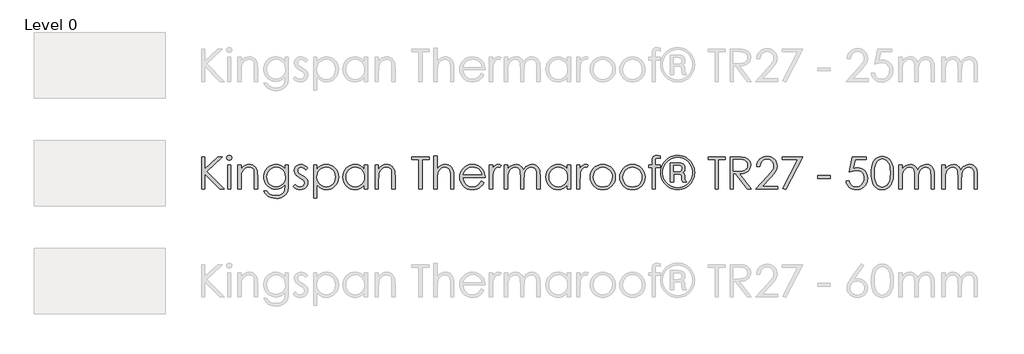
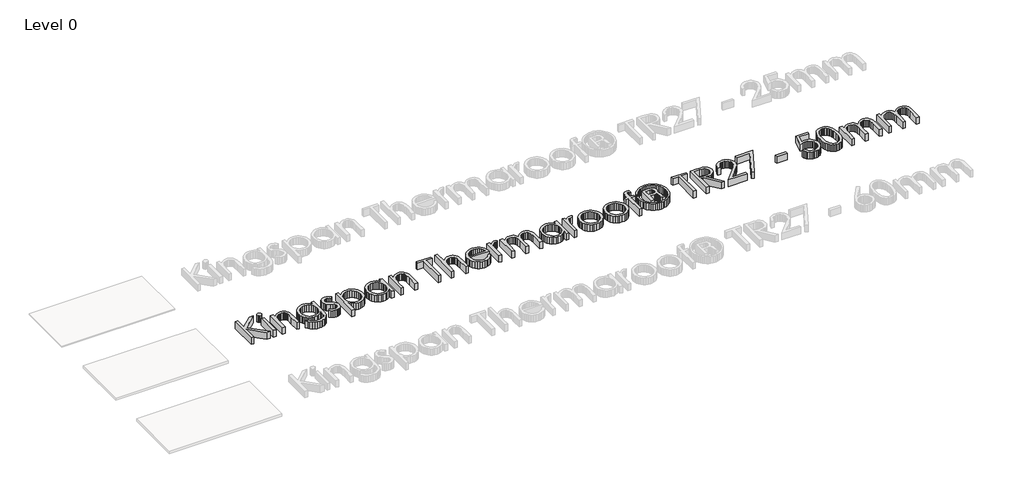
# One storey, part 11 of 12: 1 proxy.
"""IFC4 building model written with IfcOpenShell, lengths in millimetres."""

from ifc_helpers import new_model, si_unit, origin, origin_with_axes, place, context, project, spatial, polyline, outline, extrude, element, save

model = new_model("IFC4")

# Units and contexts
model_context = context("Model", 3, world=origin())
ifc_project = project(units=[si_unit("LENGTHUNIT", "METRE", prefix="MILLI")], contexts=[model_context])

# Site, building, storey
site = spatial("IfcSite", under=ifc_project)
building = spatial("IfcBuilding", under=site)
storey = spatial("IfcBuildingStorey", under=building, Name="Level 0", Elevation=0.0)

# Proxy
placement = place(None, origin())
element("IfcBuildingElementProxy", 1, Name="600mm KI_CenturyGothic", ObjectType="600mm KI_CenturyGothic", at=placement, inside=storey, context=model_context, shape_type="SweptSolid", body=[
    extrude(outline(polyline([(-3852.2663848, 3920.896535), (-3792.944575, 3920.896535), (-3792.944575, 3701.6839096), (-3555.1938841, 3920.896535), (-3471.6181051, 3920.896535), (-3760.9664119, 3653.9483908), (-3441.9572002, 3327.6784367), (-3520.8984627, 3327.6784367), (-3792.944575, 3605.9039042), (-3792.944575, 3327.6784367), (-3852.2663848, 3327.6784367), (-3852.2663848, 3920.896535)])), origin_with_axes(), (0.0, 0.0, 1.0), 150.0),
    extrude(outline(polyline([(-3348.1854852, 3950.5574399), (-3329.145347, 3947.2746574), (-3313.1176445, 3937.4263101), (-3302.226531, 3922.9820674), (-3298.5961598, 3905.9115986), (-3302.226531, 3889.0728558), (-3313.1176445, 3874.7058549), (-3329.145347, 3864.8575076), (-3348.1854852, 3861.5747252), (-3366.9938975, 3864.8575076), (-3382.9443581, 3874.7058549), (-3393.8354717, 3889.0728558), (-3397.4658428, 3905.9115986), (-3393.8354717, 3922.9820674), (-3382.9443581, 3937.4263101), (-3366.9938975, 3947.2746574), (-3348.1854852, 3950.5574399)])), origin_with_axes(), (0.0, 0.0, 1.0), 150.0),
    extrude(outline(polyline([(-3377.6919062, 3772.5920104), (-3318.3700964, 3772.5920104), (-3318.3700964, 3327.6784367), (-3377.6919062, 3327.6784367), (-3377.6919062, 3772.5920104)])), origin_with_axes(), (0.0, 0.0, 1.0), 150.0),
    extrude(outline(polyline([(-3189.8395084, 3772.5920104), (-3130.5176986, 3772.5920104), (-3130.5176986, 3693.496264), (-3096.9946967, 3733.0055162), (-3060.0730495, 3760.6967517), (-3019.7141359, 3777.033422), (-2975.879335, 3782.4789787), (-2953.4357238, 3780.9003466), (-2932.2955704, 3776.1644501), (-2912.4588747, 3768.2712894), (-2893.9256368, 3757.2208644), (-2877.212412, 3743.4959372), (-2862.835756, 3727.57927), (-2841.0921499, 3689.1707154), (-2833.6238199, 3664.7912281), (-2828.2892984, 3634.444801), (-2824.0216812, 3555.8511271), (-2824.0216812, 3327.6784367), (-2883.343491, 3327.6784367), (-2883.343491, 3540.8661908), (-2883.343491, 3643.9069386), (-2884.7290183, 3664.7043309), (-2889.8125035, 3682.7596343), (-2898.2849788, 3698.0728489), (-2910.1464442, 3710.6439746), (-2924.7403432, 3720.4440458), (-2941.4101193, 3727.4440966), (-2980.977303, 3733.0441372), (-3005.3471351, 3730.8861905), (-3028.4038541, 3724.4123504), (-3050.1474602, 3713.6226169), (-3070.5779533, 3698.5169901), (-3088.6622225, 3680.2347884), (-3103.3671568, 3659.9153306), (-3114.6927562, 3637.5586167), (-3122.6390208, 3613.1646465), (-3128.5480292, 3566.0856842), (-3130.5176986, 3491.5858332), (-3130.5176986, 3327.6784367), (-3189.8395084, 3327.6784367), (-3189.8395084, 3772.5920104)])), origin_with_axes(), (0.0, 0.0, 1.0), 150.0),
    extrude(outline(polyline([(-2319.7862977, 3772.5920104), (-2260.4644879, 3772.5920104), (-2260.4644879, 3421.6046356), (-2264.5196897, 3341.3502601), (-2269.588692, 3310.5500366), (-2276.6852953, 3285.9677892), (-2289.9371156, 3257.3544781), (-2307.2924139, 3232.2267095), (-2328.7511904, 3210.5844835), (-2354.3134448, 3192.4278), (-2383.3226209, 3178.0656268), (-2415.122162, 3167.8069317), (-2449.7120682, 3161.6517146), (-2487.0923395, 3159.5999756), (-2541.0458345, 3163.6165565), (-2589.206184, 3175.6662991), (-2630.260275, 3194.4940219), (-2662.8949946, 3218.8445435), (-2690.2000204, 3252.193751), (-2715.2650299, 3298.0175318), (-2655.94322, 3298.0175318), (-2642.4355358, 3276.8484127), (-2627.0933555, 3258.604832), (-2609.9166791, 3243.2867898), (-2590.9055067, 3230.8942861), (-2569.7894914, 3221.3307684), (-2546.2982864, 3214.4996843), (-2492.1903075, 3209.0348171), (-2438.5071593, 3214.364511), (-2415.083541, 3221.0266283), (-2393.93856, 3230.3535925), (-2359.6624492, 3254.3951463), (-2336.8567664, 3283.8822568), (-2329.3884364, 3302.5217025), (-2324.0539149, 3326.2301504), (-2319.7862977, 3388.8540531), (-2319.7862977, 3411.5631835), (-2354.757586, 3375.7808548), (-2396.6420279, 3349.3834219), (-2443.392712, 3333.104683), (-2492.9627269, 3327.6784367), (-2522.4063889, 3329.5756919), (-2550.9521133, 3335.2674573), (-2578.5999001, 3344.7537331), (-2605.3497494, 3358.0345191), (-2630.1540674, 3374.5256733), (-2651.9652601, 3393.6430534), (-2670.7833277, 3415.3866595), (-2686.6082702, 3439.7564915), (-2699.1456025, 3466.0718549), (-2708.1008399, 3493.6520551), (-2713.4739824, 3522.497092), (-2715.2650299, 3552.6069657), (-2713.3967404, 3582.8954613), (-2707.7918722, 3612.1218803), (-2698.4504251, 3640.2862227), (-2685.3723991, 3667.3884883), (-2668.9971079, 3692.5741883), (-2649.7638648, 3714.9888338), (-2627.67267, 3734.6324246), (-2602.7235235, 3751.5049608), (-2575.9833294, 3765.0560937), (-2548.5189922, 3774.7354743), (-2520.3305117, 3780.5431026), (-2491.4178881, 3782.4789787), (-2444.5320306, 3777.5354946), (-2400.8903346, 3762.7050421), (-2359.6045177, 3736.1338148), (-2319.7862977, 3695.9680061), (-2319.7862977, 3772.5920104)]), holes=[polyline([(-2484.1571458, 3733.0441372), (-2529.0154023, 3727.0192659), (-2570.5908765, 3708.944652), (-2606.2187212, 3680.2299608), (-2633.2340897, 3642.2848579), (-2650.2659375, 3598.0059158), (-2655.94322, 3550.2897075), (-2653.0080263, 3514.377033), (-2644.2024452, 3481.7181753), (-2629.5264766, 3452.3131344), (-2608.9801206, 3426.1619101), (-2583.7606272, 3404.7031337), (-2555.0652466, 3389.3754362), (-2522.8939786, 3380.1788178), (-2487.2468234, 3377.1132783), (-2451.3244937, 3380.1546796), (-2419.1001219, 3389.2788838), (-2390.573708, 3404.4858907), (-2365.7452519, 3425.7757004), (-2345.6382095, 3452.0186495), (-2331.2760363, 3482.0850746), (-2322.6587323, 3515.9749757), (-2319.7862977, 3553.6883528), (-2325.0773706, 3602.3893959), (-2340.9505892, 3645.6062613), (-2366.4983608, 3681.8327311), (-2400.8130926, 3709.5625875), (-2440.9982119, 3727.1737498), (-2484.1571458, 3733.0441372)])]), origin_with_axes(), (0.0, 0.0, 1.0), 150.0),
    extrude(outline(polyline([(-1904.5336289, 3721.3033623), (-1940.9918246, 3683.6092957), (-1962.9575012, 3705.2370389), (-1984.6721416, 3720.6854268), (-2006.1357456, 3729.9544596), (-2027.3483133, 3733.0441372), (-2052.181597, 3728.3709998), (-2073.2300256, 3714.3515878), (-2087.5970264, 3694.1141995), (-2092.3860267, 3670.7871337), (-2088.4466878, 3649.2366324), (-2076.628671, 3628.7675184), (-2052.0657341, 3606.5990816), (-2010.2006027, 3580.8775157), (-1958.3326401, 3548.0110702), (-1939.8428507, 3532.1861278), (-1926.315856, 3516.7667056), (-1909.9791857, 3484.093365), (-1904.5336289, 3447.5579274), (-1906.9474396, 3421.4115308), (-1914.1888714, 3397.3506665), (-1926.2579245, 3375.3753346), (-1943.1545989, 3355.4855351), (-1963.6719892, 3338.9943809), (-1986.6031901, 3327.2149851), (-2011.9482016, 3320.1473476), (-2039.7070237, 3317.7914684), (-2077.4397114, 3321.6728759), (-2113.3958344, 3333.3170984), (-2145.4512394, 3351.7972325), (-2171.4817731, 3376.186375), (-2135.7959969, 3416.6611515), (-2114.0041146, 3395.0334083), (-2091.5749863, 3379.5850203), (-2068.5086121, 3370.3159876), (-2044.8049918, 3367.22631), (-2013.637869, 3372.8649716), (-1987.4914724, 3389.7809564), (-1969.7644472, 3414.3438933), (-1963.8554388, 3442.923411), (-1967.7561567, 3466.7139285), (-1979.4583106, 3487.7237362), (-2005.0253927, 3509.4287213), (-2050.2119275, 3536.2316744), (-2099.762632, 3566.8967245), (-2117.441381, 3582.0554552), (-2130.3890611, 3597.098323), (-2146.3781427, 3629.23097), (-2151.7078365, 3665.6891656), (-2149.5305794, 3689.735547), (-2142.9988078, 3711.6674303), (-2132.1125219, 3731.4848155), (-2116.8717217, 3749.1877026), (-2098.309518, 3763.7526359), (-2077.4590218, 3774.1561597), (-2054.3202332, 3780.398274), (-2028.8931521, 3782.4789787), (-1997.9481, 3778.6555027), (-1966.9064954, 3767.1850746), (-1935.7683384, 3748.0676945), (-1904.5336289, 3721.3033623)])), origin_with_axes(), (0.0, 0.0, 1.0), 150.0),
    extrude(outline(polyline([(-1795.7769776, 3772.5920104), (-1736.4551678, 3772.5920104), (-1736.4551678, 3691.4879736), (-1700.9238754, 3731.7310242), (-1660.4490989, 3760.0788162), (-1614.9922173, 3776.8789381), (-1564.5146096, 3782.4789787), (-1520.0618732, 3778.2403273), (-1478.9305402, 3765.5243729), (-1441.1206107, 3744.3311157), (-1406.6320845, 3714.6605555), (-1377.9077381, 3679.0230555), (-1357.3903478, 3639.9289787), (-1345.0799137, 3597.3783251), (-1340.9764356, 3551.3710946), (-1345.0412927, 3504.4707543), (-1357.235864, 3461.2490613), (-1377.5601494, 3421.7060157), (-1406.014149, 3385.8416175), (-1440.2130179, 3356.0696773), (-1477.7719111, 3334.8040057), (-1518.6908288, 3322.0446028), (-1562.9697708, 3317.7914684), (-1612.6170277, 3323.2563357), (-1658.0545988, 3339.6509374), (-1699.3211052, 3366.8980317), (-1736.4551678, 3404.9203766), (-1736.4551678, 3169.4869439), (-1795.7769776, 3169.4869439), (-1795.7769776, 3772.5920104)]), holes=[polyline([(-1568.5311905, 3733.0441372), (-1602.5852307, 3729.7468719), (-1633.8392507, 3719.855076), (-1662.2932503, 3703.3687494), (-1687.9472295, 3680.2878923), (-1709.1694525, 3652.3021719), (-1724.3281832, 3621.1012558), (-1733.4234216, 3586.685144), (-1736.4551678, 3549.0538364), (-1731.048232, 3500.1983095), (-1714.8274246, 3456.5179925), (-1688.5265441, 3419.6735871), (-1652.8793888, 3391.3257952), (-1611.4390881, 3373.2511813), (-1567.7587711, 3367.22631), (-1525.0632888, 3373.2898022), (-1485.0326535, 3391.4802791), (-1450.2544701, 3420.5811799), (-1423.3163435, 3459.3759442), (-1406.05277, 3504.041096), (-1400.2982454, 3550.7531591), (-1405.9948385, 3597.6969481), (-1423.0846177, 3642.130374), (-1449.8103289, 3680.4809971), (-1484.414718, 3709.1763778), (-1524.7157001, 3727.0771974), (-1568.5311905, 3733.0441372)])]), origin_with_axes(), (0.0, 0.0, 1.0), 150.0),
    extrude(outline(polyline([(-807.0801472, 3772.5920104), (-807.0801472, 3327.6784367), (-866.401957, 3327.6784367), (-866.401957, 3403.5300217), (-903.4780882, 3365.6814712), (-944.8797679, 3338.95576), (-990.4525125, 3323.0825413), (-1040.0418379, 3317.7914684), (-1084.3159523, 3322.0446028), (-1125.2203871, 3334.8040057), (-1162.7551422, 3356.0696773), (-1196.9202178, 3385.8416175), (-1225.340424, 3421.7060157), (-1245.6405713, 3461.2490613), (-1257.8206597, 3504.4707543), (-1261.8806892, 3551.3710946), (-1257.7820388, 3597.3783251), (-1245.4860875, 3639.9289787), (-1224.9928353, 3679.0230555), (-1196.3022822, 3714.6605555), (-1161.8475494, 3744.3311157), (-1124.061758, 3765.5243729), (-1082.9449079, 3778.2403273), (-1038.4969991, 3782.4789787), (-987.7490446, 3776.8789381), (-942.0990581, 3760.0788162), (-921.2051134, 3747.3918275), (-901.6242816, 3731.7310242), (-866.401957, 3691.4879736), (-866.401957, 3772.5920104), (-807.0801472, 3772.5920104)]), holes=[polyline([(-1034.3259343, 3733.0441372), (-1078.1414247, 3727.0771974), (-1118.4424068, 3709.1763778), (-1153.0467959, 3680.4809971), (-1179.7725071, 3642.130374), (-1196.8622863, 3597.6969481), (-1202.5588794, 3550.7531591), (-1196.8043548, 3504.041096), (-1179.5407813, 3459.3759442), (-1152.6026548, 3420.5811799), (-1117.8244713, 3391.4802791), (-1077.6779731, 3373.2898022), (-1034.6349021, 3367.22631), (-991.0125165, 3373.2511813), (-949.7460102, 3391.3257952), (-914.2726493, 3419.6735871), (-888.0297002, 3456.5179925), (-871.8088928, 3500.1983095), (-866.401957, 3549.0538364), (-869.4337032, 3586.685144), (-878.5289416, 3621.1012558), (-893.6876723, 3652.3021719), (-914.9098953, 3680.2878923), (-940.5638746, 3703.3687494), (-969.0178742, 3719.855076), (-1000.2718941, 3729.7468719), (-1034.3259343, 3733.0441372)])]), origin_with_axes(), (0.0, 0.0, 1.0), 150.0),
    extrude(outline(polyline([(-668.662591, 3772.5920104), (-609.3407811, 3772.5920104), (-609.3407811, 3693.496264), (-575.8177792, 3733.0055162), (-538.896132, 3760.6967517), (-498.5372184, 3777.033422), (-454.7024175, 3782.4789787), (-432.2588064, 3780.9003466), (-411.1186529, 3776.1644501), (-391.2819572, 3768.2712894), (-372.7487193, 3757.2208644), (-356.0354946, 3743.4959372), (-341.6588385, 3727.57927), (-319.9152324, 3689.1707154), (-312.4469024, 3664.7912281), (-307.1123809, 3634.444801), (-302.8447637, 3555.8511271), (-302.8447637, 3327.6784367), (-362.1665735, 3327.6784367), (-362.1665735, 3540.8661908), (-362.1665735, 3643.9069386), (-363.5521008, 3664.7043309), (-368.635586, 3682.7596343), (-377.1080613, 3698.0728489), (-388.9695267, 3710.6439746), (-403.5634257, 3720.4440458), (-420.2332018, 3727.4440966), (-459.8003855, 3733.0441372), (-484.1702176, 3730.8861905), (-507.2269366, 3724.4123504), (-528.9705427, 3713.6226169), (-549.4010358, 3698.5169901), (-567.485305, 3680.2347884), (-582.1902393, 3659.9153306), (-593.5158387, 3637.5586167), (-601.4621033, 3613.1646465), (-607.3711117, 3566.0856842), (-609.3407811, 3491.5858332), (-609.3407811, 3327.6784367), (-668.662591, 3327.6784367), (-668.662591, 3772.5920104)])), origin_with_axes(), (0.0, 0.0, 1.0), 150.0),
    extrude(outline(polyline([(3.6512537, 3871.4616935), (3.6512537, 3920.896535), (320.0342394, 3920.896535), (320.0342394, 3871.4616935), (191.5036515, 3871.4616935), (191.5036515, 3327.6784367), (132.1818417, 3327.6784367), (132.1818417, 3871.4616935), (3.6512537, 3871.4616935)])), origin_with_axes(), (0.0, 0.0, 1.0), 150.0),
    extrude(outline(polyline([(409.0169542, 3940.6704716), (468.338764, 3940.6704716), (468.338764, 3691.9514252), (502.1128022, 3731.6537823), (539.1696229, 3759.9243323), (579.470605, 3776.8403171), (622.9771276, 3782.4789787), (645.4207388, 3780.9003466), (666.5608922, 3776.1644501), (686.3975879, 3768.2712894), (704.9308258, 3757.2208644), (721.6440506, 3743.5104201), (736.0207066, 3727.6372014), (757.7643127, 3689.4024412), (765.2326428, 3665.0953682), (770.5671642, 3634.7344582), (774.8347814, 3555.8511271), (774.8347814, 3327.6784367), (715.5129716, 3327.6784367), (715.5129716, 3540.8661908), (714.1226167, 3605.2473477), (709.9515519, 3643.9069386), (696.4342124, 3682.7596343), (686.7210385, 3698.0728489), (675.0381951, 3710.6439746), (661.3953375, 3720.4440458), (645.8021209, 3727.4440966), (608.7646107, 3733.0441372), (585.8961689, 3730.8861905), (564.2539428, 3724.4123504), (543.8379326, 3713.6226169), (524.6481382, 3698.5169901), (507.659739, 3680.2347884), (493.8479146, 3659.9153306), (483.212665, 3637.5586167), (475.7539902, 3613.1646465), (470.1925705, 3566.31741), (468.338764, 3491.5858332), (468.338764, 3327.6784367), (409.0169542, 3327.6784367), (409.0169542, 3940.6704716)])), origin_with_axes(), (0.0, 0.0, 1.0), 150.0),
    extrude(outline(polyline([(1280.6150037, 3475.9829613), (1328.5050064, 3450.8020889), (1302.8799929, 3408.917647), (1273.5859872, 3375.9546492), (1240.5071264, 3350.8703292), (1203.5275477, 3332.6219209), (1162.048626, 3321.4990816), (1115.4717363, 3317.7914684), (1063.9803281, 3322.2232247), (1018.4172388, 3335.5184936), (978.7824684, 3357.6772751), (945.0760169, 3388.6995692), (918.1765113, 3425.3025935), (898.9625788, 3464.2035655), (887.4342193, 3505.4024852), (883.5914328, 3548.8993525), (886.8742152, 3589.7796492), (896.7225625, 3628.3813087), (913.1364748, 3664.7043309), (936.1159519, 3698.7487159), (972.3038007, 3735.3807059), (1014.1303111, 3761.546413), (1061.5954832, 3777.2458373), (1114.6993169, 3782.4789787), (1169.3479893, 3777.1106639), (1218.2035163, 3761.0057194), (1261.2658978, 3734.1641453), (1298.5351338, 3696.5859416), (1320.008393, 3664.4146736), (1335.456781, 3628.4585506), (1344.8802977, 3588.7175726), (1348.278943, 3545.1917394), (942.9132426, 3545.1917394), (946.6498214, 3507.9369863), (956.1602353, 3474.1870862), (971.4444841, 3443.9420391), (992.502568, 3417.2018451), (1017.86689, 3395.3375485), (1046.0698533, 3379.7201937), (1077.1114579, 3370.3497809), (1110.9917037, 3367.22631), (1144.5147056, 3370.2387456), (1177.1108043, 3379.2760526), (1206.8489511, 3393.3147752), (1231.7980977, 3411.3314576), (1255.2796474, 3437.4971648), (1280.6150037, 3475.9829613)]), holes=[polyline([(1288.9571332, 3594.626581), (1274.5322009, 3637.1482689), (1254.7389538, 3670.1691981), (1228.6311782, 3695.6976593), (1195.2626601, 3715.7419427), (1157.3175572, 3728.7185886), (1117.4800267, 3733.0441372), (1085.0577224, 3730.3310141), (1054.9912973, 3722.1916447), (1027.2807514, 3708.626029), (1001.9260846, 3689.634167), (985.3866543, 3671.8202446), (970.9906877, 3650.0476728), (958.738185, 3624.3164516), (948.6291461, 3594.626581), (1288.9571332, 3594.626581)])]), origin_with_axes(), (0.0, 0.0, 1.0), 150.0),
    extrude(outline(polyline([(1427.3746895, 3772.5920104), (1486.6964993, 3772.5920104), (1486.6964993, 3708.1722326), (1512.2442709, 3741.2124723), (1539.1437765, 3764.3271229), (1567.317774, 3777.9410148), (1596.6890217, 3782.4789787), (1620.0160875, 3778.6941237), (1644.8879922, 3767.3395585), (1615.3815711, 3725.3199432), (1586.8020534, 3733.0441372), (1560.3853099, 3727.0965078), (1534.8954698, 3709.2536197), (1512.8428959, 3678.8975374), (1496.7379515, 3635.4103252), (1489.2068623, 3577.2857655), (1486.6964993, 3479.8450583), (1486.6964993, 3327.6784367), (1427.3746895, 3327.6784367), (1427.3746895, 3772.5920104)])), origin_with_axes(), (0.0, 0.0, 1.0), 150.0),
    extrude(outline(polyline([(1704.209802, 3772.5920104), (1763.5316118, 3772.5920104), (1763.5316118, 3696.4314577), (1793.1152748, 3732.9282743), (1823.4713571, 3758.0705257), (1866.8813274, 3776.3768655), (1912.4540719, 3782.4789787), (1943.2929164, 3779.3313697), (1972.4710592, 3769.8885425), (1998.2312461, 3755.212574), (2018.8162231, 3736.3655406), (2035.5970345, 3710.9336319), (2049.9447249, 3676.5030372), (2064.7220735, 3700.901835), (2081.247021, 3722.1916447), (2099.5195674, 3740.3724663), (2119.5397127, 3755.4442998), (2140.83435, 3767.2719718), (2162.9303724, 3775.720309), (2185.82778, 3780.7893113), (2209.5265726, 3782.4789787), (2251.8551557, 3776.6665228), (2271.0497777, 3769.4009528), (2288.9312868, 3759.2291548), (2305.0458865, 3746.4600966), (2318.9397805, 3731.402746), (2340.065451, 3694.4231673), (2347.3648143, 3671.0478252), (2352.5786453, 3642.4779627), (2356.74971, 3569.7546763), (2356.74971, 3327.6784367), (2297.4279002, 3327.6784367), (2297.4279002, 3573.3078055), (2294.9754686, 3634.4254905), (2287.6181738, 3672.872666), (2274.3132497, 3697.3390505), (2254.01793, 3716.5143621), (2227.9487753, 3728.9116934), (2197.3223461, 3733.0441372), (2177.6739277, 3731.4944708), (2158.894481, 3726.8454715), (2123.9425033, 3708.2494745), (2095.2085016, 3679.3030575), (2075.434565, 3642.053132), (2068.743482, 3617.8957153), (2063.9641369, 3586.825145), (2060.1406609, 3503.9445435), (2060.1406609, 3327.6784367), (2000.8188511, 3327.6784367), (2000.8188511, 3558.0139015), (1998.4050405, 3626.4695707), (1991.1636086, 3668.7016013), (1977.9166159, 3694.9445504), (1957.4861228, 3715.4329749), (1931.1659318, 3728.6413466), (1900.2498454, 3733.0441372), (1863.3088876, 3726.9999554), (1828.801051, 3708.86741), (1799.8353235, 3680.5003076), (1779.5206934, 3643.7524547), (1767.5288822, 3591.9231131), (1763.5316118, 3518.3115444), (1763.5316118, 3327.6784367), (1704.209802, 3327.6784367), (1704.209802, 3772.5920104)])), origin_with_axes(), (0.0, 0.0, 1.0), 150.0),
    extrude(outline(polyline([(2920.3069034, 3772.5920104), (2920.3069034, 3327.6784367), (2860.9850935, 3327.6784367), (2860.9850935, 3403.5300217), (2823.9089624, 3365.6814712), (2782.5072826, 3338.95576), (2736.9345381, 3323.0825413), (2687.3452127, 3317.7914684), (2643.0710983, 3322.0446028), (2602.1666635, 3334.8040057), (2564.6319083, 3356.0696773), (2530.4668328, 3385.8416175), (2502.0466266, 3421.7060157), (2481.7464792, 3461.2490613), (2469.5663908, 3504.4707543), (2465.5063614, 3551.3710946), (2469.6050118, 3597.3783251), (2481.9009631, 3639.9289787), (2502.3942153, 3679.0230555), (2531.0847683, 3714.6605555), (2565.5395011, 3744.3311157), (2603.3252926, 3765.5243729), (2644.4421427, 3778.2403273), (2688.8900515, 3782.4789787), (2739.638006, 3776.8789381), (2785.2879925, 3760.0788162), (2806.1819372, 3747.3918275), (2825.7627689, 3731.7310242), (2860.9850935, 3691.4879736), (2860.9850935, 3772.5920104), (2920.3069034, 3772.5920104)]), holes=[polyline([(2693.0611162, 3733.0441372), (2649.2456259, 3727.0771974), (2608.9446437, 3709.1763778), (2574.3402547, 3680.4809971), (2547.6145435, 3642.130374), (2530.5247643, 3597.6969481), (2524.8281712, 3550.7531591), (2530.5826957, 3504.041096), (2547.8462693, 3459.3759442), (2574.7843958, 3420.5811799), (2609.5625792, 3391.4802791), (2649.7090775, 3373.2898022), (2692.7521485, 3367.22631), (2736.374534, 3373.2511813), (2777.6410404, 3391.3257952), (2813.1144013, 3419.6735871), (2839.3573504, 3456.5179925), (2855.5781577, 3500.1983095), (2860.9850935, 3549.0538364), (2857.9533474, 3586.685144), (2848.858109, 3621.1012558), (2833.6993783, 3652.3021719), (2812.4771553, 3680.2878923), (2786.823176, 3703.3687494), (2758.3691764, 3719.855076), (2727.1151565, 3729.7468719), (2693.0611162, 3733.0441372)])]), origin_with_axes(), (0.0, 0.0, 1.0), 150.0),
    extrude(outline(polyline([(3029.0635547, 3772.5920104), (3088.3853645, 3772.5920104), (3088.3853645, 3708.1722326), (3113.9331361, 3741.2124723), (3140.8326417, 3764.3271229), (3169.0066393, 3777.9410148), (3198.3778869, 3782.4789787), (3221.7049527, 3778.6941237), (3246.5768574, 3767.3395585), (3217.0704364, 3725.3199432), (3188.4909186, 3733.0441372), (3162.0741752, 3727.0965078), (3136.584335, 3709.2536197), (3114.5317612, 3678.8975374), (3098.4268167, 3635.4103252), (3090.8957276, 3577.2857655), (3088.3853645, 3479.8450583), (3088.3853645, 3327.6784367), (3029.0635547, 3327.6784367), (3029.0635547, 3772.5920104)])), origin_with_axes(), (0.0, 0.0, 1.0), 150.0),
    extrude(outline(polyline([(3508.7360013, 3782.4789787), (3558.0453247, 3777.8541176), (3602.932547, 3763.9795341), (3643.3976682, 3740.8552284), (3679.4406884, 3708.4812003), (3706.340194, 3673.2492205), (3725.5541265, 3634.9082526), (3737.0824861, 3593.4582966), (3740.9252726, 3548.8993525), (3736.8604155, 3504.0845446), (3724.6658442, 3462.1759646), (3704.3415588, 3423.1736125), (3675.8875592, 3387.0774885), (3641.0514443, 3356.7648547), (3601.580813, 3335.1129735), (3557.4756654, 3322.1218447), (3508.7360013, 3317.7914684), (3459.8611639, 3322.1218447), (3415.6594638, 3335.1129735), (3376.130901, 3356.7648547), (3341.2754757, 3387.0774885), (3312.8214761, 3423.1736125), (3292.4971906, 3462.1759646), (3280.3026194, 3504.0845446), (3276.2377623, 3548.8993525), (3280.0805488, 3593.2651918), (3291.6089083, 3634.5992848), (3310.8228409, 3672.9016318), (3337.7223464, 3708.1722326), (3373.7846771, 3740.681434), (3414.3077298, 3763.9022922), (3459.2915046, 3777.8348071), (3508.7360013, 3782.4789787)]), holes=[polyline([(3508.5815174, 3733.0441372), (3474.3054066, 3729.66963), (3442.5396588, 3719.5461082), (3413.2842741, 3702.673572), (3386.5392524, 3679.0520212), (3364.2356423, 3650.6414702), (3348.3044922, 3619.4019332), (3338.7458021, 3585.3334101), (3335.5595721, 3548.4359009), (3341.3720281, 3500.7003821), (3358.809396, 3456.3635086), (3386.1530427, 3418.5728895), (3421.6843351, 3390.4761339), (3463.2211882, 3373.0387659), (3508.5815174, 3367.22631), (3553.9418466, 3373.0387659), (3595.4786998, 3390.4761339), (3631.0099921, 3418.5728895), (3658.3536389, 3456.3635086), (3675.7910068, 3500.7003821), (3681.6034628, 3548.4359009), (3678.4027499, 3585.3334101), (3668.8006112, 3619.4019332), (3652.7970468, 3650.6414702), (3630.3920566, 3679.0520212), (3603.5746206, 3702.673572), (3574.3337188, 3719.5461082), (3542.669351, 3729.66963), (3508.5815174, 3733.0441372)])]), origin_with_axes(), (0.0, 0.0, 1.0), 150.0),
    extrude(outline(polyline([(4052.519258, 3782.4789787), (4101.8285814, 3777.8541176), (4146.7158037, 3763.9795341), (4187.180925, 3740.8552284), (4223.2239452, 3708.4812003), (4250.1234507, 3673.2492205), (4269.3373833, 3634.9082526), (4280.8657428, 3593.4582966), (4284.7085293, 3548.8993525), (4280.6436722, 3504.0845446), (4268.4491009, 3462.1759646), (4248.1248155, 3423.1736125), (4219.6708159, 3387.0774885), (4184.834701, 3356.7648547), (4145.3640698, 3335.1129735), (4101.2589221, 3322.1218447), (4052.519258, 3317.7914684), (4003.6444206, 3322.1218447), (3959.4427205, 3335.1129735), (3919.9141578, 3356.7648547), (3885.0587324, 3387.0774885), (3856.6047328, 3423.1736125), (3836.2804474, 3462.1759646), (3824.0858761, 3504.0845446), (3820.021019, 3548.8993525), (3823.8638055, 3593.2651918), (3835.392165, 3634.5992848), (3854.6060976, 3672.9016318), (3881.5056031, 3708.1722326), (3917.5679338, 3740.681434), (3958.0909865, 3763.9022922), (4003.0747613, 3777.8348071), (4052.519258, 3782.4789787)]), holes=[polyline([(4052.3647741, 3733.0441372), (4018.0886633, 3729.66963), (3986.3229156, 3719.5461082), (3957.0675308, 3702.673572), (3930.3225091, 3679.0520212), (3908.018899, 3650.6414702), (3892.0877489, 3619.4019332), (3882.5290589, 3585.3334101), (3879.3428288, 3548.4359009), (3885.1552848, 3500.7003821), (3902.5926527, 3456.3635086), (3929.9362994, 3418.5728895), (3965.4675918, 3390.4761339), (4007.004445, 3373.0387659), (4052.3647741, 3367.22631), (4097.7251033, 3373.0387659), (4139.2619565, 3390.4761339), (4174.7932489, 3418.5728895), (4202.1368956, 3456.3635086), (4219.5742635, 3500.7003821), (4225.3867195, 3548.4359009), (4222.1860066, 3585.3334101), (4212.5838679, 3619.4019332), (4196.5803035, 3650.6414702), (4174.1753133, 3679.0520212), (4147.3578773, 3702.673572), (4118.1169755, 3719.5461082), (4086.4526077, 3729.66963), (4052.3647741, 3733.0441372)])]), origin_with_axes(), (0.0, 0.0, 1.0), 150.0),
    extrude(outline(polyline([(4561.5436418, 3939.2801167), (4561.5436418, 3887.6825008), (4535.2813822, 3897.762574), (4513.0357036, 3901.1225984), (4499.3059487, 3899.4425862), (4488.086557, 3894.4025496), (4479.9761533, 3887.1804282), (4475.5733627, 3878.9541616), (4473.0243787, 3832.3772719), (4473.0243787, 3772.5920104), (4561.5436418, 3772.5920104), (4561.5436418, 3723.1571689), (4472.8698948, 3723.1571689), (4472.8698948, 3327.6784367), (4413.2391172, 3327.6784367), (4413.2391172, 3723.1571689), (4353.9173074, 3723.1571689), (4353.9173074, 3772.5920104), (4413.2391172, 3772.5920104), (4413.2391172, 3840.1014659), (4415.3246496, 3879.9389964), (4421.5812467, 3906.4522922), (4432.8392595, 3924.3724223), (4449.9290387, 3938.4304553), (4472.000923, 3947.5256938), (4498.2052511, 3950.5574399), (4527.2482205, 3947.7381091), (4561.5436418, 3939.2801167)])), origin_with_axes(), (0.0, 0.0, 1.0), 150.0),
    extrude(outline(polyline([(5194.3096132, 3634.7923897), (5191.7075254, 3592.8500163), (5183.9012619, 3552.4524818), (5170.8908226, 3513.599786), (5152.6762077, 3476.2919291), (5129.9284564, 3441.6537467), (5103.3186081, 3410.8100745), (5072.8466628, 3383.7609127), (5038.5126205, 3360.5062612), (5001.5958009, 3341.8185394), (4963.3755235, 3328.4701666), (4923.8517884, 3320.461143), (4883.0245956, 3317.7914684), (4842.2649894, 3320.4466601), (4802.7895305, 3328.4122352), (4764.5982189, 3341.6881936), (4727.6910545, 3360.2745354), (4693.3425293, 3383.4422897), (4662.8271355, 3410.4624858), (4636.1448729, 3441.3351237), (4613.2957415, 3476.0602032), (4594.9797465, 3513.3632326), (4581.896893, 3551.9697197), (4574.0471808, 3591.8796645), (4571.4306101, 3633.093067), (4574.0471808, 3674.760266), (4581.896893, 3715.1046967), (4594.9797465, 3754.1263592), (4613.2957415, 3791.8252535), (4636.13039, 3826.8786113), (4662.769204, 3857.9636645), (4693.2121836, 3885.080413), (4727.4593286, 3908.2288568), (4764.2940787, 3926.7476119), (4802.4998732, 3939.9752941), (4842.0767122, 3947.9119035), (4883.0245956, 3950.5574399), (4923.9531684, 3947.9263863), (4963.4720759, 3940.0332256), (5001.581318, 3926.8779577), (5038.2808947, 3908.4605827), (5072.4025216, 3885.4135189), (5102.7779145, 3858.3691847), (5129.4070733, 3827.3275801), (5152.289998, 3792.2887051), (5170.6735796, 3754.6670528), (5183.8047094, 3715.8771161), (5191.6833873, 3675.918895), (5194.3096132, 3634.7923897)]), holes=[polyline([(5154.76174, 3634.1744542), (5152.4782752, 3670.3188544), (5145.6278806, 3705.3722122), (5134.2105564, 3739.3345277), (5118.2263025, 3772.2058007), (5098.3220201, 3802.8080918), (5075.1446105, 3829.9634613), (5048.6940737, 3853.6719092), (5018.9704097, 3873.9334355), (4987.0115571, 3890.1542429), (4953.8554544, 3901.7405339), (4919.5021017, 3908.6923085), (4883.9514988, 3911.0095667), (4848.1353768, 3908.6923085), (4813.4489182, 3901.7405339), (4779.892123, 3890.1542429), (4747.4649911, 3873.9334355), (4717.3116688, 3853.6719092), (4690.5763024, 3829.9634613), (4667.2588918, 3802.8080918), (4647.359437, 3772.2058007), (4631.4427698, 3739.2862515), (4620.0737217, 3705.1791074), (4613.2522929, 3669.8843685), (4610.9784833, 3633.4020348), (4613.2522929, 3597.0934954), (4620.0737217, 3562.0111718), (4631.4427698, 3528.1550641), (4647.359437, 3495.5251721), (4667.268547, 3465.1932278), (4690.6149233, 3438.2309632), (4717.398566, 3414.6383782), (4747.619475, 3394.4154728), (4780.0948831, 3378.1946654), (4813.6420231, 3366.6083744), (4848.260895, 3359.6565999), (4883.9514988, 3357.3393417), (4919.3234797, 3359.6710827), (4953.6044181, 3366.6663059), (4986.7943142, 3378.3250112), (5018.8931678, 3394.6471986), (5048.7761433, 3414.9570012), (5075.3184049, 3438.5785519), (5098.5199526, 3465.5118508), (5118.3807864, 3495.7568979), (5134.2974536, 3528.3336861), (5145.6665016, 3562.2622081), (5152.4879304, 3597.5424642), (5154.76174, 3634.1744542)])]), origin_with_axes(), (0.0, 0.0, 1.0), 150.0),
    extrude(outline(polyline([(4749.3960396, 3812.1398836), (4893.5294994, 3812.1398836), (4936.9587801, 3809.5329682), (4966.2141648, 3801.7122218), (4986.3356901, 3787.9824669), (5002.3633927, 3767.6485263), (5012.848986, 3742.0428232), (5016.3441838, 3712.4977812), (5014.722103, 3687.2010459), (5009.8558608, 3665.6891656), (4997.0336988, 3650.4338825), (4974.6335362, 3633.7110025), (4995.2957552, 3621.0240139), (5007.8475704, 3606.4445978), (5014.2200304, 3585.3382377), (5016.3441838, 3553.0704173), (5016.3441838, 3512.9046086), (5021.4035308, 3486.9513168), (5036.581572, 3465.6325414), (5046.0050887, 3456.2090247), (4976.7963106, 3456.2090247), (4967.7590036, 3480.3471309), (4961.9658581, 3508.5790599), (4957.022374, 3552.143514), (4954.4540795, 3572.6705595), (4949.8388735, 3586.0527256), (4942.9836514, 3594.4914076), (4933.6953081, 3600.1880006), (4918.0151943, 3603.4321621), (4891.9846606, 3604.5135493), (4808.7178494, 3604.5135493), (4808.7178494, 3456.2090247), (4749.3960396, 3456.2090247), (4749.3960396, 3812.1398836)]), holes=[polyline([(4808.7178494, 3762.7050421), (4808.7178494, 3653.9483908), (4888.5860152, 3653.9483908), (4919.1738234, 3656.265649), (4938.0208567, 3663.2174236), (4946.3340205, 3671.1057567), (4952.2719947, 3681.3306585), (4957.022374, 3708.7901681), (4953.6044181, 3733.0055162), (4943.3505506, 3749.7283962), (4923.6345454, 3759.4608806), (4891.8301767, 3762.7050421), (4808.7178494, 3762.7050421)])]), origin_with_axes(), (0.0, 0.0, 1.0), 150.0),
    extrude(outline(polyline([(5441.4838208, 3871.4616935), (5441.4838208, 3920.896535), (5757.8668066, 3920.896535), (5757.8668066, 3871.4616935), (5629.3362186, 3871.4616935), (5629.3362186, 3327.6784367), (5570.0144088, 3327.6784367), (5570.0144088, 3871.4616935), (5441.4838208, 3871.4616935)])), origin_with_axes(), (0.0, 0.0, 1.0), 150.0),
    extrude(outline(polyline([(5846.8495213, 3920.896535), (5966.5745281, 3920.896535), (6050.4206538, 3918.9654865), (6102.0568906, 3913.172341), (6127.5370756, 3905.6364242), (6150.5262079, 3894.7694488), (6171.0242877, 3880.5714147), (6189.0313149, 3863.042322), (6203.6976283, 3842.7421747), (6214.1735664, 3820.2309768), (6220.4591292, 3795.5087285), (6222.5543169, 3768.5754295), (6216.7804818, 3724.7213182), (6209.5631881, 3704.8942777), (6199.4589768, 3686.4672475), (6186.6754358, 3669.826437), (6171.4201527, 3655.3580562), (6133.4943602, 3632.9385831), (6110.0176381, 3625.0019738), (6082.4567484, 3619.2667598), (6015.0824664, 3614.4005176), (6232.4412852, 3327.6784367), (6160.4517972, 3327.6784367), (5943.0929784, 3614.4005176), (5906.1713311, 3614.4005176), (5906.1713311, 3327.6784367), (5846.8495213, 3327.6784367), (5846.8495213, 3920.896535)]), holes=[polyline([(5906.1713311, 3871.4616935), (5906.1713311, 3663.8353591), (6011.0658855, 3663.2174236), (6064.1310982, 3666.1139963), (6101.2844713, 3674.8037145), (6127.276384, 3689.8852033), (6146.8572158, 3711.9570876), (6159.1386842, 3739.0110771), (6163.232507, 3769.0388812), (6159.0807528, 3798.2556449), (6146.62549, 3824.7303198), (6127.4308679, 3846.2615106), (6103.0610359, 3860.6478219), (6067.2014653, 3868.7582256), (6013.5376276, 3871.4616935), (5906.1713311, 3871.4616935)])]), origin_with_axes(), (0.0, 0.0, 1.0), 150.0),
    extrude(outline(polyline([(6390.632778, 3742.9311055), (6331.3109682, 3742.9311055), (6335.7958283, 3782.1893215), (6346.9331505, 3817.7785452), (6364.7229348, 3849.6987769), (6389.1651812, 3877.9500164), (6418.5605669, 3901.0646669), (6451.2097694, 3917.5751316), (6487.1127885, 3927.4814104), (6526.2696244, 3930.7835033), (6564.7409381, 3927.486238), (6599.35981, 3917.5944421), (6630.1262402, 3901.1081155), (6657.0402286, 3878.0272584), (6678.9045253, 3850.4663687), (6694.52188, 3820.5399446), (6703.8922928, 3788.2479861), (6707.0157637, 3753.5904932), (6700.932961, 3704.7928977), (6682.6845527, 3659.1236007), (6646.902224, 3607.2363276), (6588.2176602, 3539.7848036), (6435.4331031, 3377.1132783), (6716.902732, 3377.1132783), (6716.902732, 3327.6784367), (6311.5370316, 3327.6784367), (6537.5469477, 3568.3643214), (6594.2811525, 3633.8847969), (6626.993114, 3679.9789245), (6642.5187439, 3717.3447129), (6647.6939539, 3756.6801708), (6645.4442824, 3781.2865563), (6638.6952679, 3804.1260324), (6627.4469104, 3825.1985991), (6611.6992099, 3844.5042564), (6592.6880375, 3860.6236838), (6571.6492641, 3872.1375604), (6548.5828898, 3879.0458864), (6523.4889146, 3881.3486618), (6497.1542407, 3879.0748522), (6473.1464803, 3872.2534233), (6451.4656333, 3860.8843753), (6432.1116997, 3844.9677081), (6415.8764095, 3824.9475628), (6403.5514925, 3801.2680806), (6395.1369486, 3773.9292615), (6390.632778, 3742.9311055)])), origin_with_axes(), (0.0, 0.0, 1.0), 150.0),
    extrude(outline(polyline([(6805.8854468, 3920.896535), (7181.5902423, 3920.896535), (6865.2072566, 3317.7914684), (6811.2923826, 3340.191631), (7089.9813016, 3871.4616935), (6805.8854468, 3871.4616935), (6805.8854468, 3920.896535)])), origin_with_axes(), (0.0, 0.0, 1.0), 150.0),
    extrude(outline(polyline([(7458.4253548, 3574.8526443), (7685.8256258, 3574.8526443), (7685.8256258, 3525.4178028), (7458.4253548, 3525.4178028), (7458.4253548, 3574.8526443)])), origin_with_axes(), (0.0, 0.0, 1.0), 150.0),
    extrude(outline(polyline([(8348.2525022, 3920.896535), (8348.2525022, 3871.4616935), (8140.9351356, 3871.4616935), (8106.4852304, 3710.4894908), (8144.0634341, 3719.9902494), (8177.7022989, 3723.1571689), (8217.2887931, 3719.7343854), (8253.2449161, 3709.4660351), (8285.570668, 3692.3521178), (8314.2660486, 3668.3926335), (8337.7862193, 3639.084145), (8354.5863413, 3605.9232147), (8364.6664144, 3568.9098426), (8368.0264388, 3528.0440288), (8366.302978, 3499.0783013), (8361.1325957, 3471.3484449), (8352.5152917, 3444.8544595), (8340.4510663, 3419.5963452), (8325.4468194, 3396.3947975), (8308.0094515, 3376.0705121), (8288.1389625, 3358.6234889), (8265.8353523, 3344.053728), (8241.4027612, 3332.5639894), (8215.1453293, 3324.3570333), (8187.0630565, 3319.4328597), (8157.1559429, 3317.7914684), (8121.8225831, 3320.5480402), (8089.3568302, 3328.8177554), (8059.7586844, 3342.600614), (8033.0281456, 3361.8966161), (8010.2755666, 3385.5664431), (7992.6113005, 3412.4707762), (7980.0353472, 3442.6096157), (7972.5477066, 3475.9829613), (8031.8695165, 3475.9829613), (8041.447517, 3443.2516893), (8055.9690017, 3417.3563289), (8075.8008698, 3397.0416988), (8101.3100204, 3381.0526172), (8130.3336793, 3370.6828868), (8160.7090722, 3367.22631), (8189.9982503, 3370.1518484), (8217.1536197, 3378.9284639), (8242.1751806, 3393.5561562), (8265.0629329, 3414.0349255), (8284.156175, 3438.9068302), (8297.794205, 3466.7139285), (8305.977023, 3497.4562206), (8308.704629, 3531.1337064), (8306.2425421, 3561.320822), (8298.8562816, 3588.5437782), (8286.5458475, 3612.8025749), (8269.3112396, 3634.0972122), (8247.9538433, 3651.4332001), (8223.2750435, 3663.8160486), (8195.2748403, 3671.2457577), (8163.9532336, 3673.7223274), (8135.2481977, 3671.8685208), (8103.6658996, 3666.3071012), (8031.8695165, 3644.0614225), (8091.1913263, 3920.896535), (8348.2525022, 3920.896535)])), origin_with_axes(), (0.0, 0.0, 1.0), 150.0),
    extrude(outline(polyline([(8437.2352169, 3624.133002), (8438.8138491, 3678.5644315), (8443.5497455, 3726.4592618), (8451.4429062, 3767.817493), (8462.4933313, 3802.639125), (8476.4210185, 3832.2807195), (8492.9459661, 3858.0988379), (8512.0681738, 3880.0934802), (8533.7876418, 3898.2646466), (8557.4816068, 3912.4916464), (8582.5273058, 3922.6537891), (8608.9247388, 3928.7510747), (8636.6739057, 3930.7835033), (8664.876869, 3928.7365919), (8691.7087878, 3922.5958577), (8717.1696623, 3912.3613006), (8741.2594923, 3898.0329208), (8763.4424119, 3879.6155457), (8783.1825551, 3857.1140031), (8800.479922, 3830.5282929), (8815.3345126, 3799.8584152), (8827.2635647, 3764.3416057), (8835.7843162, 3723.2151004), (8840.8967671, 3676.4788991), (8842.6009174, 3624.133002), (8840.9209052, 3571.9464164), (8835.8808686, 3525.3791819), (8827.4808077, 3484.4312985), (8815.7207223, 3449.1027662), (8801.0109604, 3418.5777171), (8783.7618697, 3392.0402831), (8763.9734502, 3369.4904643), (8741.645702, 3350.9282606), (8717.3869052, 3336.4309141), (8691.8053403, 3326.0756665), (8664.9010071, 3319.862518), (8636.6739057, 3317.7914684), (8608.9488769, 3319.7997589), (8582.6238583, 3325.8246302), (8557.6988498, 3335.8660824), (8534.1738515, 3349.9241154), (8512.5992121, 3367.9601084), (8493.5252806, 3389.9354403), (8476.9520569, 3415.8501111), (8462.879541, 3445.7041209), (8451.6601492, 3480.7236854), (8443.6462979, 3522.1350204), (8438.8379872, 3569.9381259), (8437.2352169, 3624.133002)]), holes=[polyline([(8496.5570267, 3624.2874859), (8500.9405068, 3535.9613276), (8506.4198569, 3500.9803841), (8514.0909471, 3472.1208643), (8523.9055011, 3447.8813781), (8535.8152427, 3426.7605351), (8549.8201719, 3408.7583355), (8565.9202888, 3393.8747792), (8601.2198553, 3373.8884273), (8619.6227475, 3368.8918393), (8638.5277122, 3367.22631), (8657.5195742, 3368.8580459), (8675.8741902, 3373.7532539), (8710.6716841, 3393.3340856), (8726.4290398, 3408.0100542), (8740.1781051, 3425.9301843), (8751.91888, 3447.0944758), (8761.6513644, 3471.5029288), (8771.113502, 3504.8617916), (8777.8721718, 3541.4455053), (8783.2791076, 3624.2874859), (8778.4514863, 3705.8935953), (8772.4169598, 3740.5848816), (8763.9686226, 3771.2016555), (8753.3864768, 3797.8646076), (8740.9505245, 3820.6944285), (8726.6607656, 3839.6911181), (8710.5172002, 3854.8546764), (8675.4493595, 3874.7251654), (8657.2202617, 3879.6927877), (8638.5277122, 3881.3486618), (8619.5117122, 3879.6927877), (8601.0846819, 3874.7251654), (8565.9975307, 3854.8546764), (8550.0518977, 3840.0435344), (8536.1242104, 3822.1040939), (8524.2144688, 3801.0363548), (8514.3226729, 3776.8403171), (8506.5502027, 3747.985625), (8500.9984383, 3712.9419224), (8496.5570267, 3624.2874859)])]), origin_with_axes(), (0.0, 0.0, 1.0), 150.0),
    extrude(outline(polyline([(8941.4706004, 3772.5920104), (9000.7924102, 3772.5920104), (9000.7924102, 3696.4314577), (9030.3760732, 3732.9282743), (9060.7321556, 3758.0705257), (9104.1421258, 3776.3768655), (9149.7148703, 3782.4789787), (9180.5537148, 3779.3313697), (9209.7318576, 3769.8885425), (9235.4920446, 3755.212574), (9256.0770215, 3736.3655406), (9272.857833, 3710.9336319), (9287.2055233, 3676.5030372), (9301.9828719, 3700.901835), (9318.5078194, 3722.1916447), (9336.7803658, 3740.3724663), (9356.8005111, 3755.4442998), (9378.0951484, 3767.2719718), (9400.1911708, 3775.720309), (9423.0885784, 3780.7893113), (9446.7873711, 3782.4789787), (9489.1159541, 3776.6665228), (9508.3105762, 3769.4009528), (9526.1920853, 3759.2291548), (9542.306685, 3746.4600966), (9556.2005789, 3731.402746), (9577.3262495, 3694.4231673), (9584.6256128, 3671.0478252), (9589.8394437, 3642.4779627), (9594.0105085, 3569.7546763), (9594.0105085, 3327.6784367), (9534.6886987, 3327.6784367), (9534.6886987, 3573.3078055), (9532.2362671, 3634.4254905), (9524.8789723, 3672.872666), (9511.5740481, 3697.3390505), (9491.2787284, 3716.5143621), (9465.2095737, 3728.9116934), (9434.5831446, 3733.0441372), (9414.9347261, 3731.4944708), (9396.1552795, 3726.8454715), (9361.2033017, 3708.2494745), (9332.4693001, 3679.3030575), (9312.6953635, 3642.053132), (9306.0042804, 3617.8957153), (9301.2249354, 3586.825145), (9297.4014594, 3503.9445435), (9297.4014594, 3327.6784367), (9238.0796495, 3327.6784367), (9238.0796495, 3558.0139015), (9235.6658389, 3626.4695707), (9228.4244071, 3668.7016013), (9215.1774144, 3694.9445504), (9194.7469213, 3715.4329749), (9168.4267303, 3728.6413466), (9137.5106438, 3733.0441372), (9100.5696861, 3726.9999554), (9066.0618494, 3708.86741), (9037.096122, 3680.5003076), (9016.7814918, 3643.7524547), (9004.7896806, 3591.9231131), (9000.7924102, 3518.3115444), (9000.7924102, 3327.6784367), (8941.4706004, 3327.6784367), (8941.4706004, 3772.5920104)])), origin_with_axes(), (0.0, 0.0, 1.0), 150.0),
    extrude(outline(polyline([(9732.4280647, 3772.5920104), (9791.7498746, 3772.5920104), (9791.7498746, 3696.4314577), (9821.3335375, 3732.9282743), (9851.6896199, 3758.0705257), (9895.0995901, 3776.3768655), (9940.6723346, 3782.4789787), (9971.5111791, 3779.3313697), (10000.6893219, 3769.8885425), (10026.4495089, 3755.212574), (10047.0344858, 3736.3655406), (10063.8152973, 3710.9336319), (10078.1629876, 3676.5030372), (10092.9403362, 3700.901835), (10109.4652837, 3722.1916447), (10127.7378301, 3740.3724663), (10147.7579754, 3755.4442998), (10169.0526127, 3767.2719718), (10191.1486352, 3775.720309), (10214.0460427, 3780.7893113), (10237.7448354, 3782.4789787), (10280.0734184, 3776.6665228), (10299.2680405, 3769.4009528), (10317.1495496, 3759.2291548), (10333.2641493, 3746.4600966), (10347.1580432, 3731.402746), (10368.2837138, 3694.4231673), (10375.5830771, 3671.0478252), (10380.796908, 3642.4779627), (10384.9679728, 3569.7546763), (10384.9679728, 3327.6784367), (10325.646163, 3327.6784367), (10325.646163, 3573.3078055), (10323.1937314, 3634.4254905), (10315.8364366, 3672.872666), (10302.5315125, 3697.3390505), (10282.2361928, 3716.5143621), (10256.167038, 3728.9116934), (10225.5406089, 3733.0441372), (10205.8921904, 3731.4944708), (10187.1127438, 3726.8454715), (10152.160766, 3708.2494745), (10123.4267644, 3679.3030575), (10103.6528278, 3642.053132), (10096.9617447, 3617.8957153), (10092.1823997, 3586.825145), (10088.3589237, 3503.9445435), (10088.3589237, 3327.6784367), (10029.0371139, 3327.6784367), (10029.0371139, 3558.0139015), (10026.6233032, 3626.4695707), (10019.3818714, 3668.7016013), (10006.1348787, 3694.9445504), (9985.7043856, 3715.4329749), (9959.3841946, 3728.6413466), (9928.4681081, 3733.0441372), (9891.5271504, 3726.9999554), (9857.0193138, 3708.86741), (9828.0535863, 3680.5003076), (9807.7389561, 3643.7524547), (9795.7471449, 3591.9231131), (9791.7498746, 3518.3115444), (9791.7498746, 3327.6784367), (9732.4280647, 3327.6784367), (9732.4280647, 3772.5920104)])), origin_with_axes(), (0.0, 0.0, 1.0), 150.0),
])

save(model, "model.ifc")
